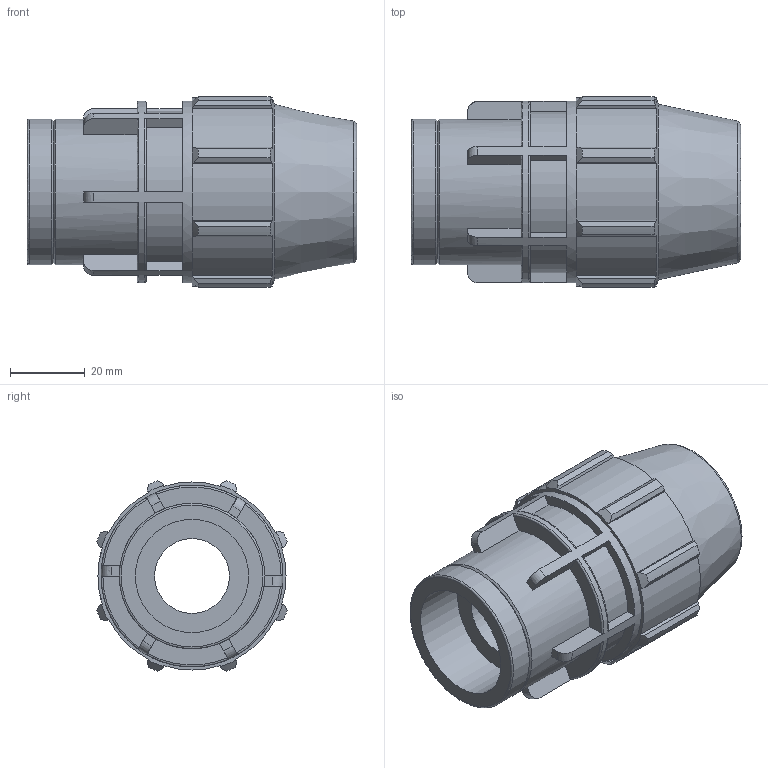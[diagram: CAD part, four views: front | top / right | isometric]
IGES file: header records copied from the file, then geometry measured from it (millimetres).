
Global section: file name: 0703G0025010__0703G60250100A.ipt; native system: Autodesk Inventor 2015; preprocessor: unknown; author: KIM; date: 20170606.133300; units: millimetre
Bounding box: 88 x 50.81 x 50.81 mm (x, y, z)
Volume: 89411.9 mm3; surface area: 24315.8 mm2
Topology: 1 solids, 1 shells, 148 faces, 413 edges, 277 vertices
Faces by surface type: plane 86, revolution 25, cylinder 25, cone 12
Full cylindrical faces by diameter (mm): 38.88 x2, 48.6 x1
